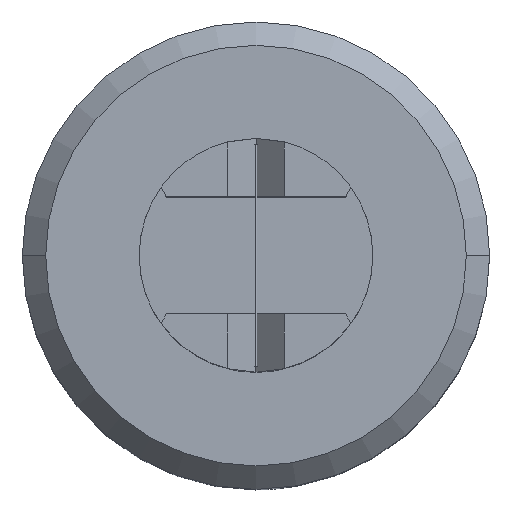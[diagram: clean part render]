
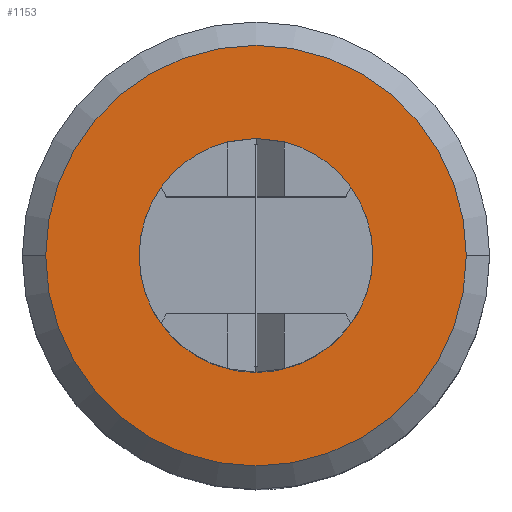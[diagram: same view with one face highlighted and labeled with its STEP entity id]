
A CAD part, top view. The second image highlights one B-rep face of the part: STEP entity #1153.
In plain terms, the highlighted planar face has unit normal (0, 0, 1).
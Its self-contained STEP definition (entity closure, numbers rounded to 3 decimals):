
#2 = DIRECTION ( 'NONE',  ( 0., 0., 1. ) ) ;
#126 = CARTESIAN_POINT ( 'NONE',  ( -17.483, 115.01, 274.142 ) ) ;
#238 = FACE_BOUND ( 'NONE', #448, .T. ) ;
#270 = AXIS2_PLACEMENT_3D ( 'NONE', #450, #733, #1217 ) ;
#298 = DIRECTION ( 'NONE',  ( 1., 0., 0. ) ) ;
#322 = DIRECTION ( 'NONE',  ( 0., 0., -1. ) ) ;
#371 = ORIENTED_EDGE ( 'NONE', *, *, #941, .F. ) ;
#415 = CIRCLE ( 'NONE', #475, 9. ) ;
#448 = EDGE_LOOP ( 'NONE', ( #1239, #371 ) ) ;
#450 = CARTESIAN_POINT ( 'NONE',  ( -17.483, 115.01, 274.142 ) ) ;
#462 = EDGE_LOOP ( 'NONE', ( #688, #723 ) ) ;
#475 = AXIS2_PLACEMENT_3D ( 'NONE', #126, #591, #675 ) ;
#524 = CARTESIAN_POINT ( 'NONE',  ( -17.483, 115.01, 274.142 ) ) ;
#569 = VERTEX_POINT ( 'NONE', #903 ) ;
#576 = EDGE_CURVE ( 'NONE', #763, #866, #1114, .T. ) ;
#591 = DIRECTION ( 'NONE',  ( 0., 0., -1. ) ) ;
#675 = DIRECTION ( 'NONE',  ( -1., 0., 0. ) ) ;
#688 = ORIENTED_EDGE ( 'NONE', *, *, #576, .F. ) ;
#696 = CIRCLE ( 'NONE', #270, 5. ) ;
#710 = DIRECTION ( 'NONE',  ( -1., 0., 0. ) ) ;
#713 = FACE_OUTER_BOUND ( 'NONE', #462, .T. ) ;
#723 = ORIENTED_EDGE ( 'NONE', *, *, #1012, .F. ) ;
#733 = DIRECTION ( 'NONE',  ( 0., 0., 1. ) ) ;
#734 = AXIS2_PLACEMENT_3D ( 'NONE', #524, #322, #710 ) ;
#763 = VERTEX_POINT ( 'NONE', #1075 ) ;
#786 = CARTESIAN_POINT ( 'NONE',  ( -22.483, 115.01, 274.142 ) ) ;
#787 = CARTESIAN_POINT ( 'NONE',  ( -17.483, 115.01, 274.142 ) ) ;
#795 = PLANE ( 'NONE',  #796 ) ;
#796 = AXIS2_PLACEMENT_3D ( 'NONE', #1200, #1008, #998 ) ;
#798 = VERTEX_POINT ( 'NONE', #786 ) ;
#866 = VERTEX_POINT ( 'NONE', #929 ) ;
#903 = CARTESIAN_POINT ( 'NONE',  ( -12.483, 115.01, 274.142 ) ) ;
#929 = CARTESIAN_POINT ( 'NONE',  ( -8.483, 115.01, 274.142 ) ) ;
#941 = EDGE_CURVE ( 'NONE', #798, #569, #696, .T. ) ;
#983 = EDGE_CURVE ( 'NONE', #569, #798, #1022, .T. ) ;
#998 = DIRECTION ( 'NONE',  ( -1., 0., 0. ) ) ;
#1008 = DIRECTION ( 'NONE',  ( 0., 0., -1. ) ) ;
#1012 = EDGE_CURVE ( 'NONE', #866, #763, #415, .T. ) ;
#1022 = CIRCLE ( 'NONE', #1158, 5. ) ;
#1075 = CARTESIAN_POINT ( 'NONE',  ( -26.483, 115.01, 274.142 ) ) ;
#1114 = CIRCLE ( 'NONE', #734, 9. ) ;
#1153 = ADVANCED_FACE ( 'NONE', ( #713, #238 ), #795, .F. ) ;
#1158 = AXIS2_PLACEMENT_3D ( 'NONE', #787, #2, #298 ) ;
#1200 = CARTESIAN_POINT ( 'NONE',  ( 9.924, 112.852, 274.142 ) ) ;
#1217 = DIRECTION ( 'NONE',  ( 1., 0., 0. ) ) ;
#1239 = ORIENTED_EDGE ( 'NONE', *, *, #983, .F. ) ;
